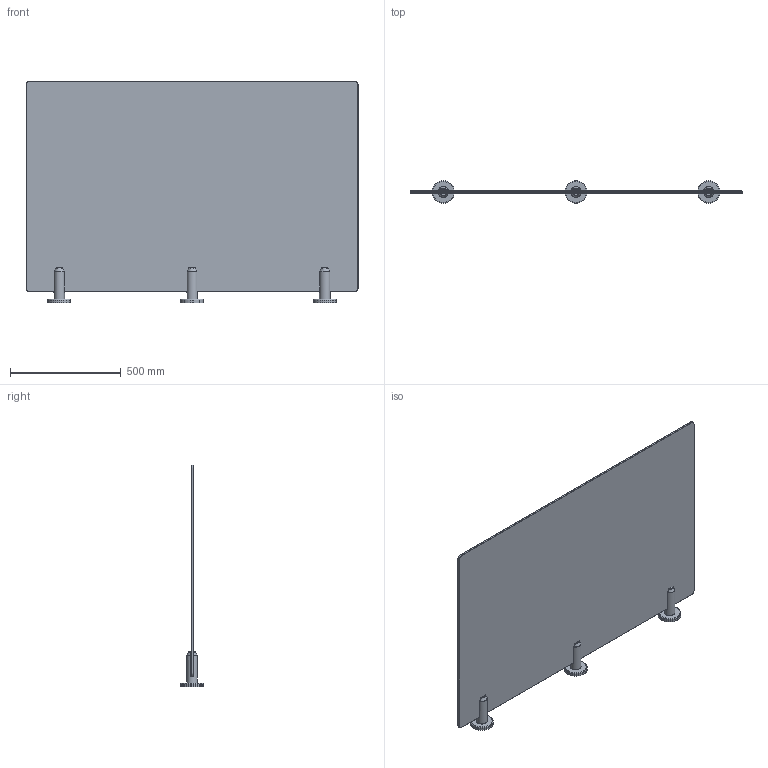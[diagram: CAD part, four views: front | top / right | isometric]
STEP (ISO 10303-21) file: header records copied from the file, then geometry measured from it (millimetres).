
FILE_DESCRIPTION(/* description */ ('Unknown'),/* implementation_level */ '2;1');
FILE_NAME(/* name */ 'BH06_1500',/* time_stamp */ '2021-12-27T11:43:27+03:00',/* author */ ('Unknown'),/* organization */ ('Unknown'),/* preprocessor_version */ 'ST-DEVELOPER v18.1',/* originating_system */ 'Solid Edge',/* authorisation */ 'Unknown');
FILE_SCHEMA (('CONFIG_CONTROL_DESIGN'));
Length unit declared in the file: millimetre
Products named in the file (10): BH06_1500; ÂÍ-06.000.00 Ìèíè-ñòîéêà äëÿ ñòåêë îãð; ﾂ竟M10x16_DIN_913_淲._ﾀ2; Âèíò Ì10õ25 DIN 7991; ÂÍ06_êðûøêà äåêîðàòèâíàÿ; ÂÍ06_ïðèæèìíàÿ ïëàñòèíà; ÂÍ06_ïðîêëàäêà; 蟬06_鐏鳧氀; 蟬06_嚦鍣罻; 蟬-06.000.01-02 栺樏鋋
Assembly tree (12 placements, depth 3):
  BH06_1500
    ÂÍ-06.000.00 Ìèíè-ñòîéêà äëÿ ñòåêë îãð  x3
      ﾂ竟M10x16_DIN_913_淲._ﾀ2
      Âèíò Ì10õ25 DIN 7991
      ÂÍ06_êðûøêà äåêîðàòèâíàÿ
      ÂÍ06_ïðèæèìíàÿ ïëàñòèíà
      ÂÍ06_ïðîêëàäêà
      蟬06_鐏鳧氀
      蟬06_嚦鍣罻
    蟬-06.000.01-02 栺樏鋋
Bounding box: 1500 x 103 x 1002 mm (x, y, z)
Volume: 15077553.3 mm3; surface area: 3210914.4 mm2
Topology: 25 solids, 25 shells, 389 faces, 953 edges, 617 vertices
Faces by surface type: plane 185, cylinder 100, cone 83, torus 21
Full cylindrical faces by diameter (mm): 8.376 x9, 10 x9, 12 x3, 16.5 x12, 20 x6, 48 x3, 49 x3, 100 x3, 101 x3, 103 x3
Entity records: 4385 total; most frequent: CARTESIAN_POINT 793, DIRECTION 632, ORIENTED_EDGE 562, EDGE_CURVE 281, AXIS2_PLACEMENT_3D 246, VERTEX_POINT 199, FACE_BOUND 188, EDGE_LOOP 186
